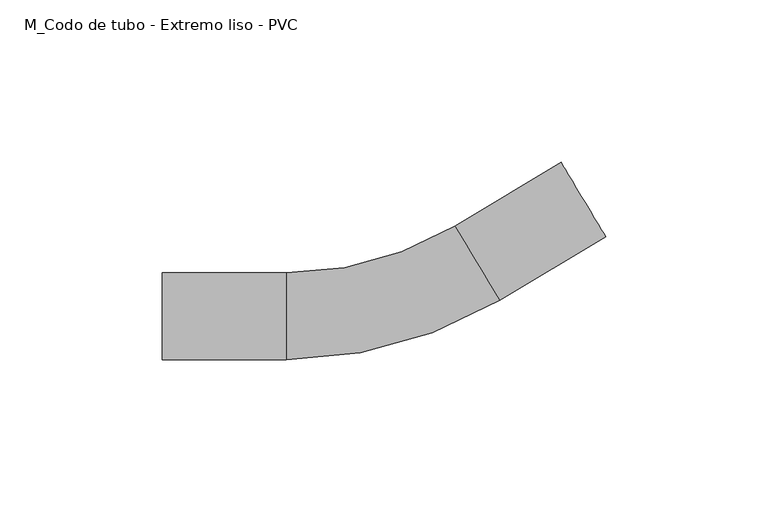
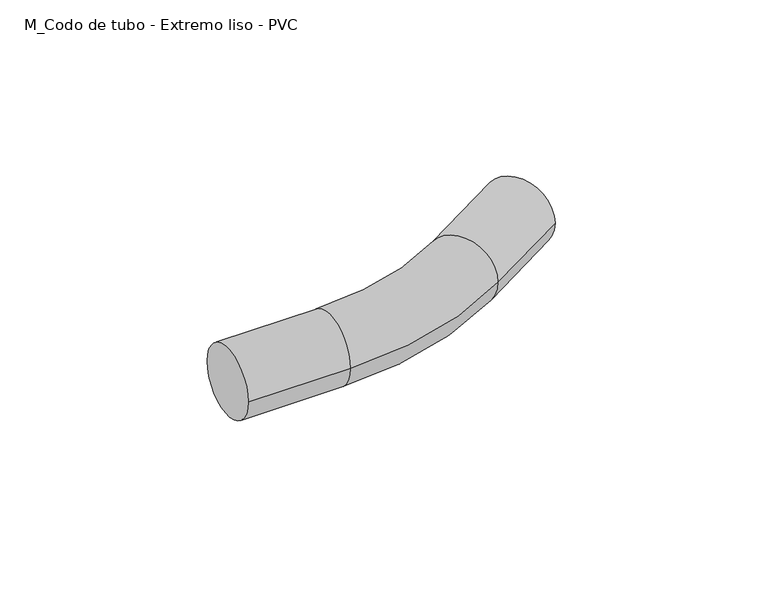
"""IFC4 building model written with IfcOpenShell, lengths in millimetres: cable carrier fitting geometry, M_Codo de tubo - Extremo liso - PVC : CODO ILUMINACION."""

from ifc_helpers import new_model, si_unit, point, frame, origin, place, context, project, spatial, circle_curve, ellipse_curve, trimmed, source, transform, mapped, element, save
from ifc_brep_helpers import plane_surface, cylinder_surface, revolved_surface, advanced_brep


def m_codo_de_tubo_extremo_liso_pvc_1ce4db88(model_context):
    return source(origin(), model_context, "Body", "AdvancedBrep", [
        advanced_brep(
        [(-69.7981954, -13.335, 0.0), (-69.7981954, 13.335, 0.0), (-31.6981954, -13.335, 0.0), (-31.6981954, 13.335, 0.0), (20.3026238, 27.7561035, 0.0), (34.0386893, 4.8954516, 0.0), (66.6967635, 24.5184022, 0.0), (52.960698, 47.3790541, 0.0)],
        [
            (0, 1, circle_curve(frame((-69.7981954, 0.0, 0.0), z_axis=(-1.0, 0.0, 0.0), x_axis=(0.0, 1.0, 0.0)), 13.335)),
            (1, 0, circle_curve(frame((-69.7981954, 0.0, 0.0), z_axis=(-1.0, 0.0, 0.0), x_axis=(0.0, 1.0, 0.0)), 13.335)),
            (0, 2),
            (2, 3, circle_curve(frame((-31.6981954, 0.0, 0.0), z_axis=(-1.0, 0.0, 0.0), x_axis=(0.0, 1.0, 0.0)), 13.335)),
            (3, 1),
            (3, 2, circle_curve(frame((-31.6981954, 0.0, 0.0), z_axis=(-1.0, 0.0, 0.0), x_axis=(0.0, 1.0, 0.0)), 13.335)),
            (4, 3, circle_curve(frame((-31.6981954, 114.3, 0.0), z_axis=(0.0, 0.0, -1.0), x_axis=(0.0, -1.0, 0.0)), 100.965)),
            (2, 5, circle_curve(frame((-31.6981954, 114.3, 0.0), z_axis=(0.0, 0.0, 1.0), x_axis=(0.0, -1.0, 0.0)), 127.635)),
            (5, 4, circle_curve(frame((27.1706566, 16.3257775, 0.0), z_axis=(-0.8571673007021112, -0.5150380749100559, 0.0), x_axis=(-0.5150380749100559, 0.8571673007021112, 0.0)), 13.335)),
            (4, 5, circle_curve(frame((27.1706566, 16.3257775, 0.0), z_axis=(-0.8571673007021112, -0.5150380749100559, 0.0), x_axis=(-0.5150380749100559, 0.8571673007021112, 0.0)), 13.335)),
            (6, 7, circle_curve(frame((59.8287307, 35.9487282, 0.0), z_axis=(0.8571673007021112, 0.5150380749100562, 0.0), x_axis=(-0.5150380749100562, 0.8571673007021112, 0.0)), 13.335)),
            (7, 6, circle_curve(frame((59.8287307, 35.9487282, 0.0), z_axis=(0.8571673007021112, 0.5150380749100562, 0.0), x_axis=(-0.5150380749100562, 0.8571673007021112, 0.0)), 13.335)),
            (5, 6),
            (7, 4),
        ],
        [
            plane_surface(frame((-69.7981954, 0.0, 0.0), z_axis=(-1.0, 0.0, 0.0), x_axis=(0.0, 0.0, 1.0))),
            cylinder_surface(frame((-69.7981954, 0.0, 0.0), z_axis=(-1.0, 0.0, 0.0), x_axis=(0.0, 1.0, 0.0)), 13.335),
            revolved_surface(trimmed(ellipse_curve(frame((-31.6981954, 0.0, 0.0), z_axis=(-1.0, 0.0, 0.0), x_axis=(0.0, 1.0, 0.0)), 13.335, 13.335), [point((-31.6981954, -13.335, 0.0))], [point((-31.6981954, 13.335, 0.0))], True, "CARTESIAN"), (-31.6981954, 114.3, 0.0), (0.0, 0.0, 1.0)),
            revolved_surface(trimmed(ellipse_curve(frame((-31.6981954, 0.0, 0.0), z_axis=(-1.0, 0.0, 0.0), x_axis=(0.0, 1.0, 0.0)), 13.335, 13.335), [point((-31.6981954, 13.335, 0.0))], [point((-31.6981954, -13.335, 0.0))], True, "CARTESIAN"), (-31.6981954, 114.3, 0.0), (0.0, 0.0, 1.0)),
            plane_surface(frame((59.8287307, 35.9487282, 0.0), z_axis=(0.8571673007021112, 0.5150380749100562, 0.0), x_axis=(0.0, 0.0, 1.0))),
            cylinder_surface(frame((27.1706566, 16.3257775, 0.0), z_axis=(-0.8571673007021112, -0.5150380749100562, 0.0), x_axis=(-0.5150380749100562, 0.8571673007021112, 0.0)), 13.335),
        ],
        [
            (0, [[1, 2]]),
            (1, [[-1, 3, 4, 5]]),
            (1, [[-2, -5, 6, -3]]),
            (2, [[7, -4, 8, 9]]),
            (3, [[-8, -6, -7, 10]]),
            (4, [[11, 12]]),
            (5, [[-9, 13, -12, 14]]),
            (5, [[-10, -14, -11, -13]]),
        ],
    ),
    ])


if __name__ == "__main__":
    model = new_model("IFC4")
    model_context = context("Model", 3, world=origin())
    ifc_project = project(units=[si_unit("LENGTHUNIT", "METRE", prefix="MILLI")], contexts=[model_context])
    site = spatial("IfcSite", under=ifc_project)
    building = spatial("IfcBuilding", under=site)
    placement = place(None, origin())
    m_codo_de_tubo_extremo_liso_pvc_shape = m_codo_de_tubo_extremo_liso_pvc_1ce4db88(model_context)
    element("IfcCableCarrierFitting", 1, ObjectType="M_Codo de tubo - Extremo liso - PVC : CODO ILUMINACION", at=placement, inside=building, context=model_context, shape_type="MappedRepresentation", body=[
        mapped(m_codo_de_tubo_extremo_liso_pvc_shape, transform((0.0, 0.0, 0.0), x_axis=(1.0, 0.0, 0.0), y_axis=(0.0, 1.0, 0.0), z_axis=(0.0, 0.0, 1.0))),
    ])
    save(model, "model.ifc")
